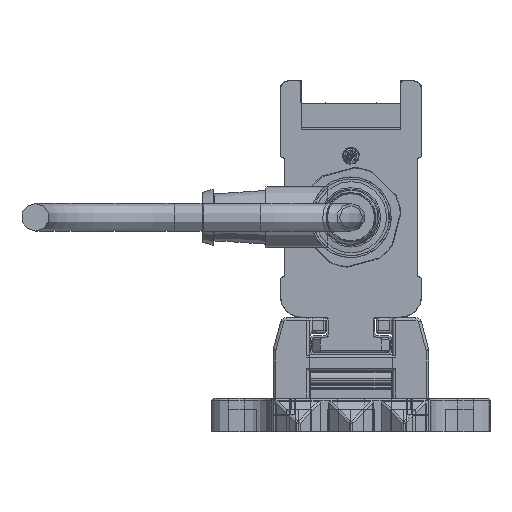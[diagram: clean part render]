
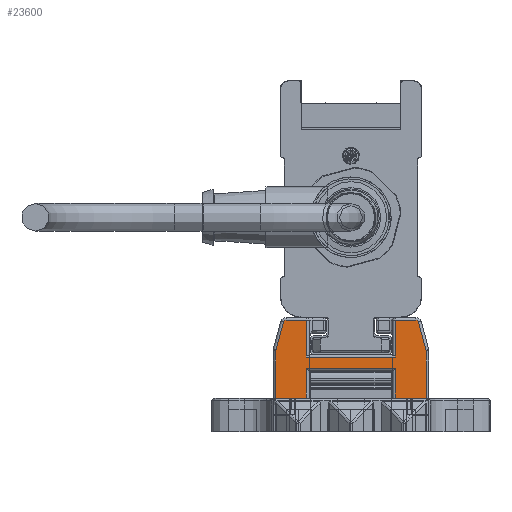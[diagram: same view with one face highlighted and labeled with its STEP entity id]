
A CAD part, left-side view. The second image highlights one B-rep face of the part: STEP entity #23600.
In plain terms, the highlighted planar face has unit normal (-1, 0, 0).
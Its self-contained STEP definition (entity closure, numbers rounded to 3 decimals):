
#23600=ADVANCED_FACE('', (#23610), #23620, .T.);
#189050=AXIS2_PLACEMENT_3D('Ax2Pl3d', #189060, #189070, #189080);
#189290=AXIS2_PLACEMENT_3D('Ax2Pl3d', #189300, #189310, #189320);
#194170=AXIS2_PLACEMENT_3D('Ax2Pl3d', #194180, #194190, #194200);
#199250=AXIS2_PLACEMENT_3D('Ax2Pl3d', #199260, #199270, #199280);
#208930=AXIS2_PLACEMENT_3D('Ax2Pl3d', #208940, #208950, #208960);
#844600=CARTESIAN_POINT('', (-747.669,-5686.345,
331.37));
#189060=CARTESIAN_POINT('HicPkt', (-747.669,-5685.379,
331.111));
#844610=CARTESIAN_POINT('', (-747.669,-5686.379,331.111)
);
#844620=CARTESIAN_POINT('', (-747.669,-5685.037,
336.255));
#844640=CARTESIAN_POINT('', (-747.669,-5685.037,
336.255));
#844670=CARTESIAN_POINT('', (-747.669,-5684.554,
336.625));
#189300=CARTESIAN_POINT('HicPkt', (-747.669,-5684.554,
336.125));
#844890=CARTESIAN_POINT('', (-747.669,-5686.379,322.625)
);
#844900=CARTESIAN_POINT('', (-747.669,-5680.881,322.625)
);
#844910=CARTESIAN_POINT('', (-747.669,-5680.881,322.625)
);
#844990=CARTESIAN_POINT('', (-747.669,-5664.881,322.625)
);
#845000=CARTESIAN_POINT('', (-747.669,-5659.383,322.625)
);
#845010=CARTESIAN_POINT('', (-747.669,-5659.383,322.625)
);
#194180=CARTESIAN_POINT('HicPkt', (-747.669,-5661.209,
336.125));
#847480=CARTESIAN_POINT('', (-747.669,-5660.726,
336.255));
#847490=CARTESIAN_POINT('', (-747.669,-5661.209,
336.625));
#847500=CARTESIAN_POINT('', (-747.669,-5680.881,
330.025));
#847510=CARTESIAN_POINT('', (-747.669,-5664.881,
330.025));
#847520=CARTESIAN_POINT('', (-747.669,-5680.881,
330.025));
#847680=CARTESIAN_POINT('', (-747.669,-5680.881,
328.005));
#847690=CARTESIAN_POINT('', (-747.669,-5664.881,
328.005));
#847700=CARTESIAN_POINT('', (-747.669,-5664.881,
328.005));
#847710=CARTESIAN_POINT('', (-747.669,-5680.881,
328.005));
#847730=CARTESIAN_POINT('', (-747.669,-5664.881,322.625)
);
#847740=CARTESIAN_POINT('', (-747.669,-5664.881,
330.025));
#847750=CARTESIAN_POINT('', (-747.669,-5664.881,
336.625));
#848600=CARTESIAN_POINT('', (-747.669,-5664.881,
336.625));
#848610=CARTESIAN_POINT('', (-747.669,-5660.726,
336.255));
#848620=CARTESIAN_POINT('', (-747.669,-5659.417,
331.37));
#848810=CARTESIAN_POINT('', (-747.669,-5659.383,331.111)
);
#848820=CARTESIAN_POINT('', (-747.669,-5659.383,331.111)
);
#199260=CARTESIAN_POINT('HicPkt', (-747.669,-5660.383,
331.111));
#849630=CARTESIAN_POINT('', (-747.669,-5686.379,331.111)
);
#208940=CARTESIAN_POINT('HicPkt', (-747.669,-5684.554,
336.625));
#851430=CARTESIAN_POINT('', (-747.669,-5680.881,
336.625));
#851440=CARTESIAN_POINT('', (-747.669,-5680.881,
336.625));
#851450=CARTESIAN_POINT('', (-747.669,-5680.881,
336.625));
#981330=CIRCLE('Circle', #189050, 1.);
#981370=CIRCLE('Circle', #189290, 0.5);
#981950=CIRCLE('Circle', #194170, 0.5);
#982480=CIRCLE('Circle', #199250, 1.);
#189070=DIRECTION('Axis', (-1.,0.,
0.));
#189080=DIRECTION('RefDirection', (0.,
0.,-1.));
#1367870=DIRECTION('', (0.,0.259,
0.966));
#189310=DIRECTION('Axis', (-1.,0.,
0.));
#189320=DIRECTION('RefDirection', (0.,
0.,-1.));
#1367980=DIRECTION('', (0.,1.,0.));
#1368020=DIRECTION('', (0.,1.,0.));
#194190=DIRECTION('Axis', (1.,0.,
0.));
#194200=DIRECTION('RefDirection', (0.,
0.,-1.));
#1369210=DIRECTION('', (0.,-1.,0.));
#1369310=DIRECTION('', (0.,1.,0.));
#1369320=DIRECTION('', (0.,0.,1.));
#1369340=DIRECTION('', (0.,0.,-1.));
#1369350=DIRECTION('', (0.,0.,-1.));
#1369780=DIRECTION('', (0.,-1.,0.))
;
#1369790=DIRECTION('', (0.,-0.259,0.966));
#1369880=DIRECTION('', (0.,0.,1.));
#199270=DIRECTION('Axis', (1.,0.,
0.));
#199280=DIRECTION('RefDirection', (0.,
0.,-1.));
#1370250=DIRECTION('', (0.,0.,1.));
#208950=DIRECTION('Axis', (-1.,0.,
0.));
#208960=DIRECTION('RefDirection', (0.,
0.,-1.));
#1371090=DIRECTION('', (0.,1.,0.));
#1371100=DIRECTION('', (0.,0.,1.));
#1456860=EDGE_CURVE('', #1456870, #1456850, #981330, .T.);
#1456920=EDGE_CURVE('', #1456850, #1456900, #1456930, .T.);
#1456990=EDGE_CURVE('', #1456900, #1456980, #981370, .T.);
#1457440=EDGE_CURVE('', #1457430, #1457450, #1457460, .T.);
#1457600=EDGE_CURVE('', #1457590, #1457610, #1457620, .T.);
#1461960=EDGE_CURVE('', #1461970, #1461980, #981950, .T.);
#1462010=EDGE_CURVE('', #1462020, #1462030, #1462040, .T.);
#1462380=EDGE_CURVE('', #1462360, #1462390, #1462400, .T.);
#1462430=EDGE_CURVE('', #1457450, #1462360, #1462440, .T.);
#1462470=EDGE_CURVE('', #1462390, #1457590, #1462480, .T.);
#1462490=EDGE_CURVE('', #1462500, #1462020, #1462510, .T.);
#1464330=EDGE_CURVE('', #1461980, #1462500, #1464340, .T.);
#1464400=EDGE_CURVE('', #1464410, #1461970, #1464420, .T.);
#1464840=EDGE_CURVE('', #1457610, #1464850, #1464860, .T.);
#1464880=EDGE_CURVE('', #1464850, #1464410, #982480, .T.);
#1466590=EDGE_CURVE('', #1457430, #1456870, #1466600, .T.);
#1470400=EDGE_CURVE('', #1456980, #1470410, #1470420, .T.);
#1470430=EDGE_CURVE('', #1462030, #1470410, #1470440, .T.);
#1750440=EDGE_LOOP('Edge_loop', (#1750450,#1750460,#1750470,#1750480,
#1750490,#1750500,#1750510,#1750520,#1750530,#1750540,#1750550,
#1750560,#1750570,#1750580,#1750590,#1750600,#1750610,#1750620));
#23610=FACE_OUTER_BOUND('Face_outer_bound', #1750440, .T.);
#1456930=LINE('Line', #844640, #2017940);
#1457460=LINE('Line', #844900, #2018050);
#1457620=LINE('Line', #845000, #2018090);
#1462040=LINE('Line', #847500, #2019280);
#1462400=LINE('Line', #847690, #2019380);
#1462440=LINE('Line', #847710, #2019390);
#1462480=LINE('Line', #847730, #2019410);
#1462510=LINE('Line', #847740, #2019420);
#1464340=LINE('Line', #848600, #2019850);
#1464420=LINE('Line', #848610, #2019860);
#1464860=LINE('Line', #848810, #2019950);
#1466600=LINE('Line', #849630, #2020320);
#1470420=LINE('Line', #851430, #2021160);
#1470440=LINE('Line', #851450, #2021170);
#1750450=ORIENTED_EDGE('', *, *, #1470400, .T.);
#1750460=ORIENTED_EDGE('', *, *, #1470430, .F.);
#1750470=ORIENTED_EDGE('', *, *, #1462010, .F.);
#1750480=ORIENTED_EDGE('', *, *, #1462490, .F.);
#1750490=ORIENTED_EDGE('', *, *, #1464330, .F.);
#1750500=ORIENTED_EDGE('', *, *, #1461960, .F.);
#1750510=ORIENTED_EDGE('', *, *, #1464400, .F.);
#1750520=ORIENTED_EDGE('', *, *, #1464880, .F.);
#1750530=ORIENTED_EDGE('', *, *, #1464840, .F.);
#1750540=ORIENTED_EDGE('', *, *, #1457600, .F.);
#1750550=ORIENTED_EDGE('', *, *, #1462470, .F.);
#1750560=ORIENTED_EDGE('', *, *, #1462380, .F.);
#1750570=ORIENTED_EDGE('', *, *, #1462430, .F.);
#1750580=ORIENTED_EDGE('', *, *, #1457440, .F.);
#1750590=ORIENTED_EDGE('', *, *, #1466590, .T.);
#1750600=ORIENTED_EDGE('', *, *, #1456860, .T.);
#1750610=ORIENTED_EDGE('', *, *, #1456920, .T.);
#1750620=ORIENTED_EDGE('', *, *, #1456990, .T.);
#23620=PLANE('Plane', #208930);
#2017940=VECTOR('', #1367870, 5.057);
#2018050=VECTOR('', #1367980, 5.498);
#2018090=VECTOR('', #1368020, 5.498);
#2019280=VECTOR('', #1369210, 16.);
#2019380=VECTOR('', #1369310, 16.);
#2019390=VECTOR('', #1369320, 5.38);
#2019410=VECTOR('', #1369340, 5.38);
#2019420=VECTOR('', #1369350, 6.6);
#2019850=VECTOR('', #1369780, 3.672);
#2019860=VECTOR('', #1369790, 5.057);
#2019950=VECTOR('', #1369880, 8.486);
#2020320=VECTOR('', #1370250, 8.486);
#2021160=VECTOR('', #1371090, 3.672);
#2021170=VECTOR('', #1371100, 6.6);
#1456850=VERTEX_POINT('', #844600);
#1456870=VERTEX_POINT('', #844610);
#1456900=VERTEX_POINT('', #844620);
#1456980=VERTEX_POINT('', #844670);
#1457430=VERTEX_POINT('', #844890);
#1457450=VERTEX_POINT('', #844910);
#1457590=VERTEX_POINT('', #844990);
#1457610=VERTEX_POINT('', #845010);
#1461970=VERTEX_POINT('', #847480);
#1461980=VERTEX_POINT('', #847490);
#1462020=VERTEX_POINT('', #847510);
#1462030=VERTEX_POINT('', #847520);
#1462360=VERTEX_POINT('', #847680);
#1462390=VERTEX_POINT('', #847700);
#1462500=VERTEX_POINT('', #847750);
#1464410=VERTEX_POINT('', #848620);
#1464850=VERTEX_POINT('', #848820);
#1470410=VERTEX_POINT('', #851440);
